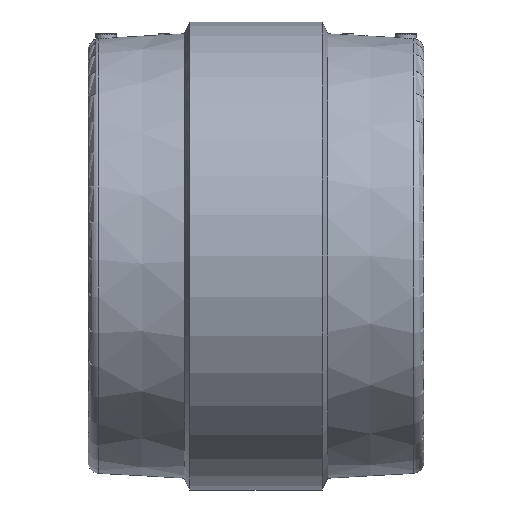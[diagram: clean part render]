
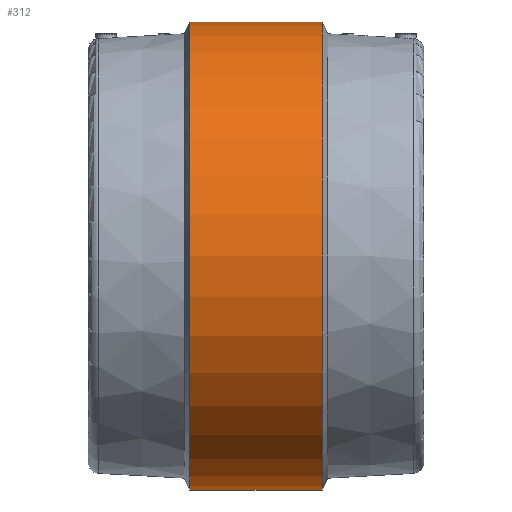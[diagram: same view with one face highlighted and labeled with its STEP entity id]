
A CAD part, front view. The second image highlights one B-rep face of the part: STEP entity #312.
In plain terms, the highlighted cylindrical face has radius 247.5 mm (diameter 495 mm), a full revolution.
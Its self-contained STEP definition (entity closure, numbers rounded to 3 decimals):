
#21=CYLINDRICAL_SURFACE('',#362,247.5);
#72=ORIENTED_EDGE('',*,*,#125,.F.);
#73=ORIENTED_EDGE('',*,*,#124,.T.);
#124=EDGE_CURVE('',#152,#152,#176,.T.);
#125=EDGE_CURVE('',#153,#153,#177,.T.);
#152=VERTEX_POINT('',#595);
#153=VERTEX_POINT('',#598);
#176=CIRCLE('',#361,247.5);
#177=CIRCLE('',#363,247.5);
#210=EDGE_LOOP('',(#72));
#211=EDGE_LOOP('',(#73));
#264=FACE_BOUND('',#210,.T.);
#265=FACE_BOUND('',#211,.T.);
#312=ADVANCED_FACE('',(#264,#265),#21,.T.);
#361=AXIS2_PLACEMENT_3D('',#594,#431,#432);
#362=AXIS2_PLACEMENT_3D('',#596,#433,#434);
#363=AXIS2_PLACEMENT_3D('',#597,#435,#436);
#431=DIRECTION('',(-1.,0.,0.));
#432=DIRECTION('',(0.,0.,1.));
#433=DIRECTION('',(-1.,0.,0.));
#434=DIRECTION('',(0.,0.,1.));
#435=DIRECTION('',(-1.,0.,0.));
#436=DIRECTION('',(0.,0.,1.));
#594=CARTESIAN_POINT('',(70.,0.,0.));
#595=CARTESIAN_POINT('',(70.,0.,247.5));
#596=CARTESIAN_POINT('',(-60.,0.,0.));
#597=CARTESIAN_POINT('',(-70.,0.,0.));
#598=CARTESIAN_POINT('',(-70.,0.,247.5));
